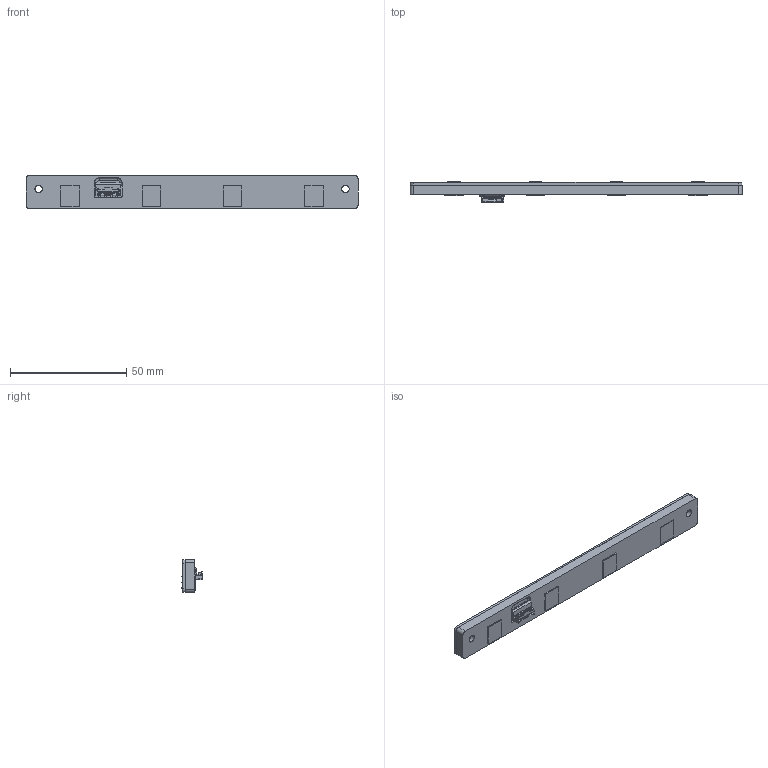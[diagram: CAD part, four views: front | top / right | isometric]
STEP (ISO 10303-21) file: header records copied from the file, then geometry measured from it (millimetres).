
FILE_DESCRIPTION((''),'2;1');
FILE_NAME('CASE_TOP_ASSY_ASM','2021-04-08T',('g6007893'),(''),'PRO/ENGINEER BY PARAMETRIC TECHNOLOGY CORPORATION, 2013320','PRO/ENGINEER BY PARAMETRIC TECHNOLOGY CORPORATION, 2013320','');
FILE_SCHEMA(('AUTOMOTIVE_DESIGN { 1 0 10303 214 1 1 1 1 }'));
Products named in the file (23): SPONGE_MIC_SILICON_REV02_1_1; SPONGE_MIC_SILICON_ASSY_ASM; 5022311500; 96_1516T00-045-0408-1600; CAVITY_NUMBERS0; UQFN-6X6-48MSH; C-0805-H1_35; ICT020; MIC-S4_72X3_76-6; C-0603S0; C-0402S0; C-0201S1; R-0402S0; R-0603S0; ICT50; LABEL-13X8-PAD; 96_1516T00-045-0408-1600_TOP; 96_1516T00-045-0408-1600_BOTTOM; 96_1516T00-045-0408-1600_ASM; MIC_PCB_LINEAR_ASSY_ASM; SILICON_MIC_UA300_REV02_1_1; SILICON_MIC_RUBBER_ASM; CASE_TOP_ASSY_ASM
Assembly tree (95 placements, depth 4):
  CASE_TOP_ASSY_ASM
    SPONGE_MIC_SILICON_ASSY_ASM
      SPONGE_MIC_SILICON_REV02_1_1
    MIC_PCB_LINEAR_ASSY_ASM
      5022311500
      96_1516T00-045-0408-1600_ASM
        96_1516T00-045-0408-1600
        CAVITY_NUMBERS0
        UQFN-6X6-48MSH
        C-0805-H1_35  x2
        ICT020  x2
        MIC-S4_72X3_76-6  x4
        C-0603S0  x13
        C-0402S0  x18
        C-0201S1  x4
        R-0402S0  x7
        R-0603S0  x23
        ICT50  x9
        LABEL-13X8-PAD
        96_1516T00-045-0408-1600_TOP
        96_1516T00-045-0408-1600_BOTTOM
    SILICON_MIC_RUBBER_ASM
      SILICON_MIC_UA300_REV02_1_1
Bounding box: 142.8 x 8.75 x 14.3 mm (x, y, z)
Volume: 9875.4 mm3; surface area: 16215 mm2
Topology: 89 solids, 89 shells, 4880 faces, 18432 edges, 15151 vertices
Faces by surface type: plane 4557, cylinder 309, torus 8, cone 4, bspline 2
Entity records: 106898 total; most frequent: CARTESIAN_POINT 14609, DIRECTION 13741, ORIENTED_EDGE 9724, VECTOR 8609, LINE 8609, PRESENTATION_STYLE_ASSIGNMENT 7331, STYLED_ITEM 7331, CURVE_STYLE 7330
